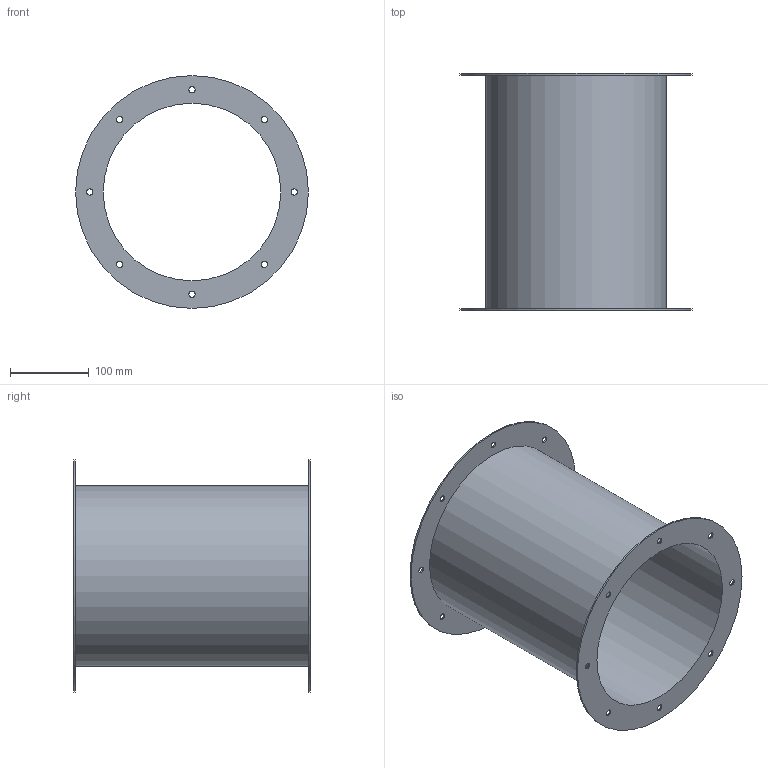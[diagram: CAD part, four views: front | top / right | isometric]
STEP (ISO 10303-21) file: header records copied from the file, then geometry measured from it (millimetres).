
FILE_DESCRIPTION(/* description */ (''),/* implementation_level */ '2;1');
FILE_NAME(/* name */ 'Z:\Output\VR 225-01401-001.stp',/* time_stamp */ '2017-05-05T18:42:43+02:00',/* author */ ('jayeshpanchal'),/* organization */ (''),/* preprocessor_version */ 'ST-DEVELOPER v16.5',/* originating_system */ 'Autodesk Inventor 2017',/* authorisation */ '');
FILE_SCHEMA (('AUTOMOTIVE_DESIGN { 1 0 10303 214 3 1 1 }'));
Length unit declared in the file: millimetre
Products named in the file (1): VR-1
Bounding box: 295 x 300 x 295 mm (x, y, z)
Volume: 534925.3 mm3; surface area: 539411.5 mm2
Topology: 1 solids, 1 shells, 24 faces, 60 edges, 40 vertices
Faces by surface type: cylinder 20, plane 4
Full cylindrical faces by diameter (mm): 8 x16, 225 x1, 229 x1, 295 x2
Entity records: 742 total; most frequent: DIRECTION 130, CARTESIAN_POINT 105, EDGE_LOOP 80, ORIENTED_EDGE 80, AXIS2_PLACEMENT_3D 65, FACE_BOUND 56, CIRCLE 40, VERTEX_POINT 40
